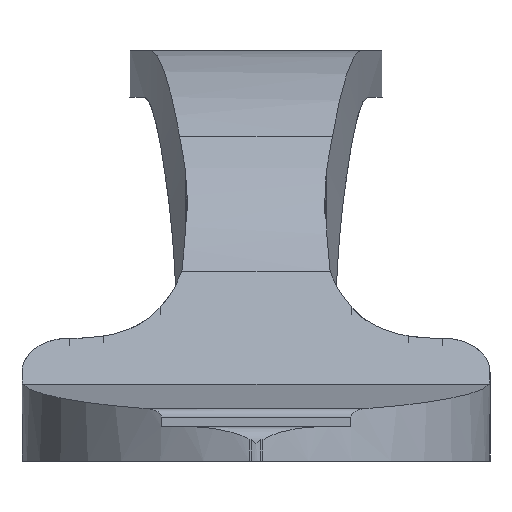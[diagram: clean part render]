
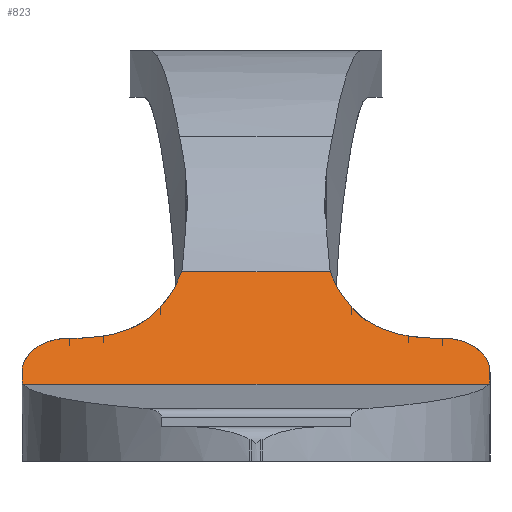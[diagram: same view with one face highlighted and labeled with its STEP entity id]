
A CAD part, left-side view. The second image highlights one B-rep face of the part: STEP entity #823.
In plain terms, the highlighted planar face has unit normal (-0.585, 0, 0.811).
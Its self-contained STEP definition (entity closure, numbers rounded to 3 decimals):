
#385 = VERTEX_POINT( '', #1105 );
#581 = EDGE_CURVE( '', #617, #595, #1322, .T. );
#595 = VERTEX_POINT( '', #1338 );
#609 = EDGE_CURVE( '', #661, #617, #1353, .T. );
#617 = VERTEX_POINT( '', #1361 );
#625 = EDGE_CURVE( '', #809, #1017, #1371, .T. );
#627 = VERTEX_POINT( '', #1373 );
#653 = EDGE_CURVE( '', #707, #661, #1400, .T. );
#661 = VERTEX_POINT( '', #1408 );
#699 = EDGE_CURVE( '', #729, #707, #1449, .T. );
#707 = VERTEX_POINT( '', #1457 );
#713 = EDGE_CURVE( '', #809, #729, #1463, .T. );
#729 = VERTEX_POINT( '', #1480 );
#767 = EDGE_CURVE( '', #1075, #923, #1523, .T. );
#809 = VERTEX_POINT( '', #1569 );
#823 = ADVANCED_FACE( '', ( #1584 ), #1585, .T. );
#891 = EDGE_CURVE( '', #1015, #627, #1660, .T. );
#923 = VERTEX_POINT( '', #1693 );
#957 = EDGE_CURVE( '', #385, #1075, #1728, .T. );
#997 = EDGE_CURVE( '', #627, #385, #1770, .T. );
#1009 = EDGE_CURVE( '', #923, #1017, #1783, .T. );
#1015 = VERTEX_POINT( '', #1789 );
#1017 = VERTEX_POINT( '', #1791 );
#1023 = EDGE_CURVE( '', #595, #1015, #1797, .T. );
#1075 = VERTEX_POINT( '', #1856 );
#1105 = CARTESIAN_POINT( '', ( -6.578, -10.919, 7.184 ) );
#1322 = ELLIPSE( '', #2224, 20.45, 16.58 );
#1338 = CARTESIAN_POINT( '', ( -10.295, 13.649, 4.5 ) );
#1353 = ELLIPSE( '', #2289, 3.355, 2.72 );
#1361 = CARTESIAN_POINT( '', ( -9.353, 13.695, 5.18 ) );
#1371 = LINE( '', #2319, #2320 );
#1373 = CARTESIAN_POINT( '', ( -9.353, -13.695, 5.18 ) );
#1400 = ELLIPSE( '', #2360, 10.928, 8.86 );
#1408 = CARTESIAN_POINT( '', ( -6.578, 10.919, 7.184 ) );
#1449 = ELLIPSE( '', #2441, 6.377, 5.17 );
#1457 = CARTESIAN_POINT( '', ( -6.388, 8.899, 7.321 ) );
#1463 = ELLIPSE( '', #2475, 12.334, 10. );
#1480 = CARTESIAN_POINT( '', ( -4.12, 5.617, 8.958 ) );
#1523 = ELLIPSE( '', #2575, 6.377, 5.17 );
#1569 = CARTESIAN_POINT( '', ( -1.171, 4.34, 11.087 ) );
#1584 = FACE_OUTER_BOUND( '', #2687, .T. );
#1585 = PLANE( '', #2688 );
#1660 = ELLIPSE( '', #2823, 20.45, 16.58 );
#1693 = CARTESIAN_POINT( '', ( -4.12, -5.617, 8.958 ) );
#1728 = ELLIPSE( '', #2944, 10.928, 8.86 );
#1770 = ELLIPSE( '', #3007, 3.355, 2.72 );
#1783 = ELLIPSE( '', #3035, 12.334, 10. );
#1789 = CARTESIAN_POINT( '', ( -10.295, -13.649, 4.5 ) );
#1791 = CARTESIAN_POINT( '', ( -1.171, -4.34, 11.087 ) );
#1797 = LINE( '', #3060, #3061 );
#1856 = CARTESIAN_POINT( '', ( -6.388, -8.899, 7.321 ) );
#2224 = AXIS2_PLACEMENT_3D( '', #3408, #3409, #3410 );
#2289 = AXIS2_PLACEMENT_3D( '', #3455, #3456, #3457 );
#2319 = CARTESIAN_POINT( '', ( -1.171, 20., 11.087 ) );
#2320 = VECTOR( '', #3477, 1. );
#2360 = AXIS2_PLACEMENT_3D( '', #3500, #3501, #3502 );
#2441 = AXIS2_PLACEMENT_3D( '', #3537, #3538, #3539 );
#2475 = AXIS2_PLACEMENT_3D( '', #3546, #3547, #3548 );
#2575 = AXIS2_PLACEMENT_3D( '', #3618, #3619, #3620 );
#2687 = EDGE_LOOP( '', ( #3681, #3682, #3683, #3684, #3685, #3686, #3687, #3688, #3689, #3690, #3691, #3692 ) );
#2688 = AXIS2_PLACEMENT_3D( '', #3693, #3694, #3695 );
#2823 = AXIS2_PLACEMENT_3D( '', #3804, #3805, #3806 );
#2944 = AXIS2_PLACEMENT_3D( '', #3864, #3865, #3866 );
#3007 = AXIS2_PLACEMENT_3D( '', #3909, #3910, #3911 );
#3035 = AXIS2_PLACEMENT_3D( '', #3923, #3924, #3925 );
#3060 = CARTESIAN_POINT( '', ( -10.295, 20., 4.5 ) );
#3061 = VECTOR( '', #3928, 1. );
#3408 = CARTESIAN_POINT( '', ( -9.015, -2.882, 5.425 ) );
#3409 = DIRECTION( '', ( -0.585, 0., 0.811 ) );
#3410 = DIRECTION( '', ( -0.811, 0., -0.585 ) );
#3455 = CARTESIAN_POINT( '', ( -9.297, 10.975, 5.22 ) );
#3456 = DIRECTION( '', ( -0.585, 0., 0.811 ) );
#3457 = DIRECTION( '', ( 0.811, 0., 0.585 ) );
#3477 = DIRECTION( '', ( 0., -1., 0. ) );
#3500 = CARTESIAN_POINT( '', ( 2.28, 10.734, 13.579 ) );
#3501 = DIRECTION( '', ( 0.585, 0., -0.811 ) );
#3502 = DIRECTION( '', ( -0.811, 0., -0.585 ) );
#3537 = CARTESIAN_POINT( '', ( -1.33, 9.97, 10.973 ) );
#3538 = DIRECTION( '', ( 0.585, 0., -0.811 ) );
#3539 = DIRECTION( '', ( -0.811, 0., -0.585 ) );
#3546 = CARTESIAN_POINT( '', ( 1.277, 14.036, 12.855 ) );
#3547 = DIRECTION( '', ( 0.585, 0., -0.811 ) );
#3548 = DIRECTION( '', ( 0.811, 0., 0.585 ) );
#3618 = CARTESIAN_POINT( '', ( -1.33, -9.97, 10.973 ) );
#3619 = DIRECTION( '', ( 0.585, 0., -0.811 ) );
#3620 = DIRECTION( '', ( -0.811, 0., -0.585 ) );
#3681 = ORIENTED_EDGE( '', *, *, #1009, .T. );
#3682 = ORIENTED_EDGE( '', *, *, #625, .F. );
#3683 = ORIENTED_EDGE( '', *, *, #713, .T. );
#3684 = ORIENTED_EDGE( '', *, *, #699, .T. );
#3685 = ORIENTED_EDGE( '', *, *, #653, .T. );
#3686 = ORIENTED_EDGE( '', *, *, #609, .T. );
#3687 = ORIENTED_EDGE( '', *, *, #581, .T. );
#3688 = ORIENTED_EDGE( '', *, *, #1023, .T. );
#3689 = ORIENTED_EDGE( '', *, *, #891, .T. );
#3690 = ORIENTED_EDGE( '', *, *, #997, .T. );
#3691 = ORIENTED_EDGE( '', *, *, #957, .T. );
#3692 = ORIENTED_EDGE( '', *, *, #767, .T. );
#3693 = CARTESIAN_POINT( '', ( -10.295, 20., 4.5 ) );
#3694 = DIRECTION( '', ( -0.585, 0., 0.811 ) );
#3695 = DIRECTION( '', ( -0.811, 0., -0.585 ) );
#3804 = CARTESIAN_POINT( '', ( -9.015, 2.882, 5.425 ) );
#3805 = DIRECTION( '', ( -0.585, 0., 0.811 ) );
#3806 = DIRECTION( '', ( -0.811, 0., -0.585 ) );
#3864 = CARTESIAN_POINT( '', ( 2.28, -10.734, 13.579 ) );
#3865 = DIRECTION( '', ( 0.585, 0., -0.811 ) );
#3866 = DIRECTION( '', ( -0.811, 0., -0.585 ) );
#3909 = CARTESIAN_POINT( '', ( -9.297, -10.975, 5.22 ) );
#3910 = DIRECTION( '', ( -0.585, 0., 0.811 ) );
#3911 = DIRECTION( '', ( -0.811, 0., -0.585 ) );
#3923 = CARTESIAN_POINT( '', ( 1.277, -14.036, 12.855 ) );
#3924 = DIRECTION( '', ( 0.585, 0., -0.811 ) );
#3925 = DIRECTION( '', ( -0.811, 0., -0.585 ) );
#3928 = DIRECTION( '', ( 0., -1., 0. ) );
